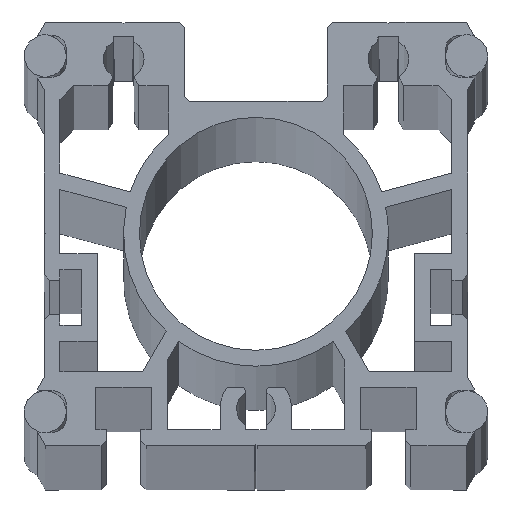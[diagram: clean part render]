
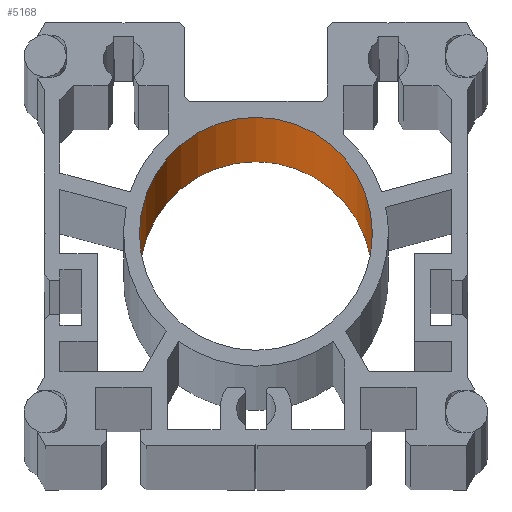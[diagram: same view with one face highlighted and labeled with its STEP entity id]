
A CAD part, top view. The second image highlights one B-rep face of the part: STEP entity #5168.
In plain terms, the highlighted cylindrical face has radius 22 mm (diameter 44 mm), a partial arc.
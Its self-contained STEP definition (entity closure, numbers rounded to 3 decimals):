
#756 = DIRECTION ( 'NONE',  ( 1., 0., 0. ) ) ;
#757 = DIRECTION ( 'NONE',  ( 0., 0., 1. ) ) ;
#758 = CARTESIAN_POINT ( 'NONE',  ( 0., 40., -2399. ) ) ;
#759 = AXIS2_PLACEMENT_3D ( 'NONE', #758, #757, #756 ) ;
#760 = CIRCLE ( 'NONE', #759, 22. ) ;
#2026 = DIRECTION ( 'NONE',  ( 0., 0., 1. ) ) ;
#2027 = VECTOR ( 'NONE', #2026, 1000. ) ;
#2028 = CARTESIAN_POINT ( 'NONE',  ( 22., 40., -2399. ) ) ;
#2029 = LINE ( 'NONE', #2028, #2027 ) ;
#2030 = CARTESIAN_POINT ( 'NONE',  ( 22., 40., 2399. ) ) ;
#2036 = CARTESIAN_POINT ( 'NONE',  ( -22., 40., 2399. ) ) ;
#2037 = DIRECTION ( 'NONE',  ( 0., 0., 1. ) ) ;
#2038 = VECTOR ( 'NONE', #2037, 1000. ) ;
#2086 = CARTESIAN_POINT ( 'NONE',  ( -22., 40., -2399. ) ) ;
#2087 = LINE ( 'NONE', #2086, #2038 ) ;
#2373 = CARTESIAN_POINT ( 'NONE',  ( 22., 40., -2399. ) ) ;
#2374 = CARTESIAN_POINT ( 'NONE',  ( -22., 40., -2399. ) ) ;
#5093 = EDGE_CURVE ( 'NONE', #6579, #6578, #760, .T. ) ;
#5168 = ADVANCED_FACE ( 'NONE', ( #5825 ), #5822, .F. ) ;
#5169 = ORIENTED_EDGE ( 'NONE', *, *, #6514, .F. ) ;
#5170 = ORIENTED_EDGE ( 'NONE', *, *, #5093, .F. ) ;
#5171 = ORIENTED_EDGE ( 'NONE', *, *, #6520, .T. ) ;
#5172 = ORIENTED_EDGE ( 'NONE', *, *, #5221, .T. ) ;
#5221 = EDGE_CURVE ( 'NONE', #6518, #6515, #6024, .T. ) ;
#5222 = EDGE_LOOP ( 'NONE', ( #5169, #5170, #5171, #5172 ) ) ;
#5819 = DIRECTION ( 'NONE',  ( 1., 0., 0. ) ) ;
#5820 = DIRECTION ( 'NONE',  ( 0., 0., 1. ) ) ;
#5821 = AXIS2_PLACEMENT_3D ( 'NONE', #5824, #5820, #5819 ) ;
#5822 = CYLINDRICAL_SURFACE ( 'NONE', #5821, 22. ) ;
#5824 = CARTESIAN_POINT ( 'NONE',  ( 0., 40., -2399. ) ) ;
#5825 = FACE_OUTER_BOUND ( 'NONE', #5222, .T. ) ;
#6020 = DIRECTION ( 'NONE',  ( 1., 0., 0. ) ) ;
#6021 = DIRECTION ( 'NONE',  ( 0., 0., 1. ) ) ;
#6022 = CARTESIAN_POINT ( 'NONE',  ( 0., 40., 2399. ) ) ;
#6023 = AXIS2_PLACEMENT_3D ( 'NONE', #6022, #6021, #6020 ) ;
#6024 = CIRCLE ( 'NONE', #6023, 22. ) ;
#6514 = EDGE_CURVE ( 'NONE', #6578, #6515, #2087, .T. ) ;
#6515 = VERTEX_POINT ( 'NONE', #2036 ) ;
#6518 = VERTEX_POINT ( 'NONE', #2030 ) ;
#6520 = EDGE_CURVE ( 'NONE', #6579, #6518, #2029, .T. ) ;
#6578 = VERTEX_POINT ( 'NONE', #2374 ) ;
#6579 = VERTEX_POINT ( 'NONE', #2373 ) ;
